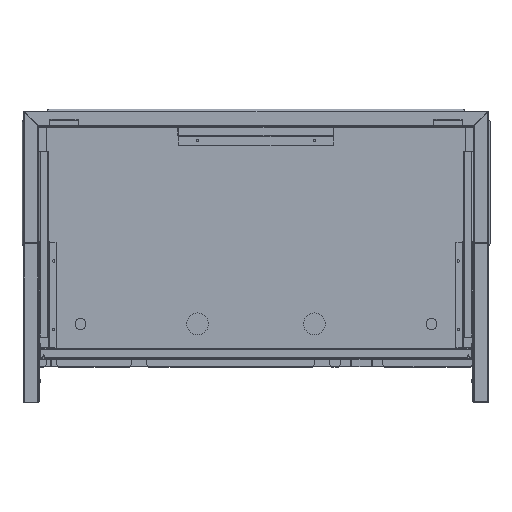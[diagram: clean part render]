
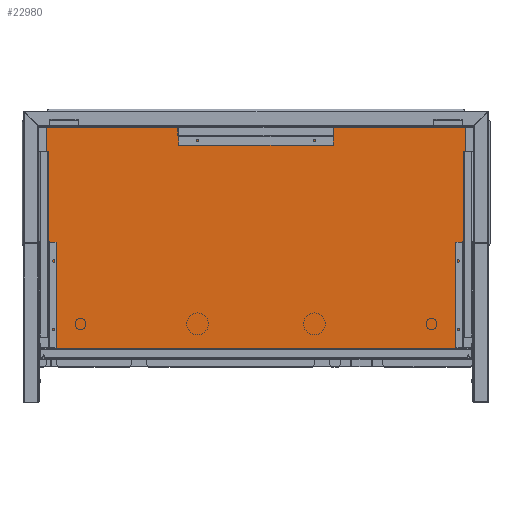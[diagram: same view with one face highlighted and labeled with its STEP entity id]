
A CAD part, front view. The second image highlights one B-rep face of the part: STEP entity #22980.
In plain terms, the highlighted planar face has unit normal (0, 1, 0).
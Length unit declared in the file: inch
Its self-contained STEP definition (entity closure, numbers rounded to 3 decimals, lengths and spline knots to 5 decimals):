
#3080 = EDGE_CURVE ( 'NONE', #50022, #16622, #46490, .T. ) ;
#3679 = CARTESIAN_POINT ( 'NONE',  ( -10.62908, 68.87815, 0. ) ) ;
#3974 = EDGE_CURVE ( 'NONE', #8233, #8172, #15579, .T. ) ;
#8172 = VERTEX_POINT ( 'NONE', #43833 ) ;
#8233 = VERTEX_POINT ( 'NONE', #48699 ) ;
#8807 = DIRECTION ( 'NONE',  ( 0., 0., 1. ) ) ;
#9045 = CARTESIAN_POINT ( 'NONE',  ( -10.62908, 68.87815, 44.25 ) ) ;
#14606 = ORIENTED_EDGE ( 'NONE', *, *, #3080, .T. ) ;
#15579 = LINE ( 'NONE', #45349, #16911 ) ;
#16622 = VERTEX_POINT ( 'NONE', #3679 ) ;
#16911 = VECTOR ( 'NONE', #45666, 39.37008 ) ;
#17413 = DIRECTION ( 'NONE',  ( -1., 0., 0. ) ) ;
#18191 = EDGE_LOOP ( 'NONE', ( #49901, #14606, #48018, #48919 ) ) ;
#18850 = CARTESIAN_POINT ( 'NONE',  ( 12.13654, 68.87815, 0. ) ) ;
#22980 = ADVANCED_FACE ( 'NONE', ( #24490 ), #34051, .T. ) ;
#24121 = EDGE_CURVE ( 'NONE', #16622, #8233, #40111, .T. ) ;
#24490 = FACE_OUTER_BOUND ( 'NONE', #18191, .T. ) ;
#25344 = CARTESIAN_POINT ( 'NONE',  ( 12.05267, 68.87815, 44.25 ) ) ;
#29856 = LINE ( 'NONE', #25344, #41156 ) ;
#32769 = CARTESIAN_POINT ( 'NONE',  ( 12.05267, 68.87815, 0. ) ) ;
#33697 = DIRECTION ( 'NONE',  ( 0., 0., 1. ) ) ;
#33818 = DIRECTION ( 'NONE',  ( 0., 1., 0. ) ) ;
#34051 = PLANE ( 'NONE',  #41809 ) ;
#34189 = CARTESIAN_POINT ( 'NONE',  ( 12.13654, 68.87815, 44.25 ) ) ;
#34569 = VECTOR ( 'NONE', #8807, 39.37008 ) ;
#38917 = VECTOR ( 'NONE', #17413, 39.37008 ) ;
#40111 = LINE ( 'NONE', #9045, #34569 ) ;
#41156 = VECTOR ( 'NONE', #55184, 39.37008 ) ;
#41809 = AXIS2_PLACEMENT_3D ( 'NONE', #34189, #33818, #33697 ) ;
#43833 = CARTESIAN_POINT ( 'NONE',  ( 12.05267, 68.87815, 44.25 ) ) ;
#45349 = CARTESIAN_POINT ( 'NONE',  ( 12.13654, 68.87815, 44.25 ) ) ;
#45666 = DIRECTION ( 'NONE',  ( 1., 0., 0. ) ) ;
#46490 = LINE ( 'NONE', #18850, #38917 ) ;
#48018 = ORIENTED_EDGE ( 'NONE', *, *, #24121, .T. ) ;
#48699 = CARTESIAN_POINT ( 'NONE',  ( -10.62908, 68.87815, 44.25 ) ) ;
#48919 = ORIENTED_EDGE ( 'NONE', *, *, #3974, .T. ) ;
#49901 = ORIENTED_EDGE ( 'NONE', *, *, #50630, .T. ) ;
#50022 = VERTEX_POINT ( 'NONE', #32769 ) ;
#50630 = EDGE_CURVE ( 'NONE', #8172, #50022, #29856, .T. ) ;
#55184 = DIRECTION ( 'NONE',  ( 0., 0., -1. ) ) ;
